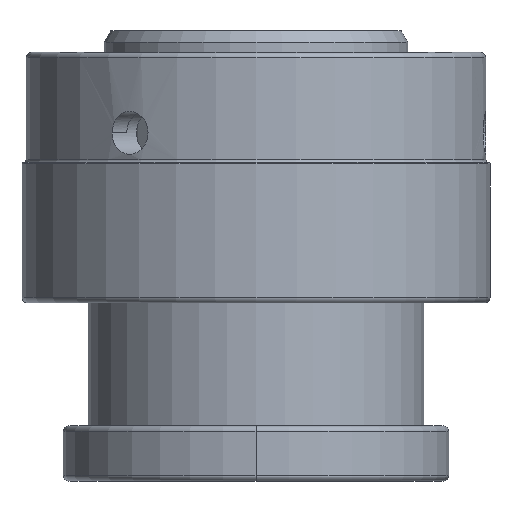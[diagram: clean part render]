
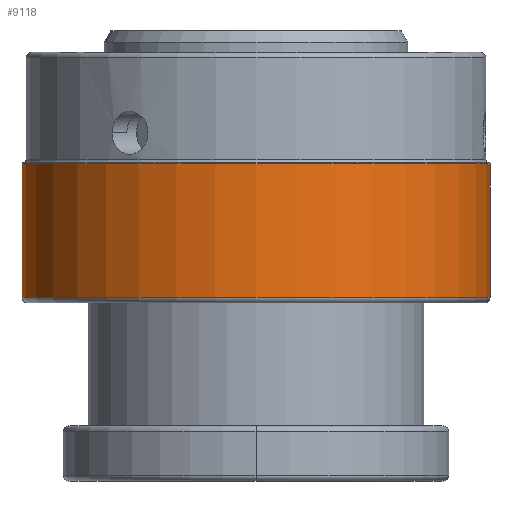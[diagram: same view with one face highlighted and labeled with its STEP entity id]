
A CAD part, left-side view. The second image highlights one B-rep face of the part: STEP entity #9118.
In plain terms, the highlighted cylindrical face has radius 21.59 mm (diameter 43.18 mm), a partial arc.
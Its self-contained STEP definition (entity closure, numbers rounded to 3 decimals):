
#1470=DIRECTION('',(0.,0.,1.));
#1471=VECTOR('',#1470,12.319);
#1472=CARTESIAN_POINT('',(0.,21.59,-22.606));
#1473=LINE('',#1472,#1471);
#1474=DIRECTION('',(0.,0.,1.));
#1475=VECTOR('',#1474,12.319);
#1476=CARTESIAN_POINT('',(0.,-21.59,-22.606));
#1477=LINE('',#1476,#1475);
#1478=CARTESIAN_POINT('',(0.,0.,-22.606));
#1479=DIRECTION('',(0.,0.,1.));
#1480=DIRECTION('',(0.,1.,0.));
#1481=AXIS2_PLACEMENT_3D('',#1478,#1479,#1480);
#1493=CARTESIAN_POINT('',(0.,0.,-10.287));
#1494=DIRECTION('',(0.,0.,1.));
#1495=DIRECTION('',(0.,1.,0.));
#1496=AXIS2_PLACEMENT_3D('',#1493,#1494,#1495);
#5310=CARTESIAN_POINT('',(0.,21.59,-22.606));
#5311=CARTESIAN_POINT('',(0.,21.59,-10.287));
#5312=VERTEX_POINT('',#5310);
#5313=VERTEX_POINT('',#5311);
#5314=CARTESIAN_POINT('',(0.,-21.59,-22.606));
#5315=CARTESIAN_POINT('',(0.,-21.59,-10.287));
#5316=VERTEX_POINT('',#5314);
#5317=VERTEX_POINT('',#5315);
#9106=CARTESIAN_POINT('',(0.,0.,1.156));
#9107=DIRECTION('',(0.,0.,-1.));
#9108=DIRECTION('',(0.,-1.,0.));
#9109=AXIS2_PLACEMENT_3D('',#9106,#9107,#9108);
#9110=CYLINDRICAL_SURFACE('',#9109,21.59);
#9111=ORIENTED_EDGE('',*,*,#9096,.T.);
#9113=ORIENTED_EDGE('',*,*,#9112,.T.);
#9114=ORIENTED_EDGE('',*,*,#9099,.F.);
#9115=ORIENTED_EDGE('',*,*,#9070,.F.);
#9116=EDGE_LOOP('',(#9111,#9113,#9114,#9115));
#9117=FACE_OUTER_BOUND('',#9116,.F.);
#9118=ADVANCED_FACE('',(#9117),#9110,.T.);
#1482=CIRCLE('',#1481,21.59);
#1497=CIRCLE('',#1496,21.59);
#9070=EDGE_CURVE('',#5312,#5316,#1482,.T.);
#9096=EDGE_CURVE('',#5312,#5313,#1473,.T.);
#9099=EDGE_CURVE('',#5316,#5317,#1477,.T.);
#9112=EDGE_CURVE('',#5313,#5317,#1497,.T.);
